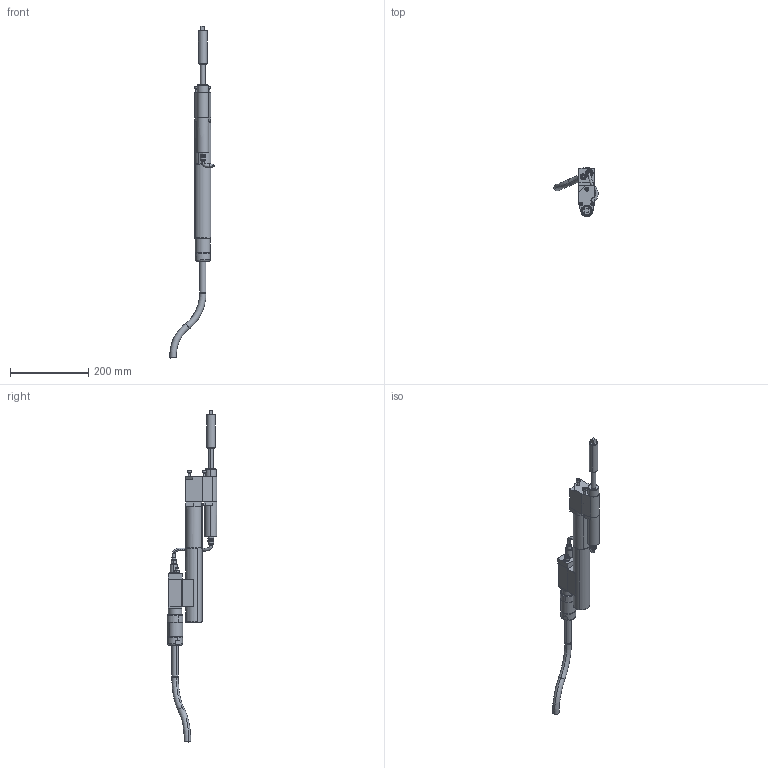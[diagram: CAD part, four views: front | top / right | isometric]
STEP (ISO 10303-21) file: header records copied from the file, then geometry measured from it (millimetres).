
FILE_DESCRIPTION(('CATIA V5 STEP Exchange'),'2;1');
FILE_NAME('O:\3D-Schrauber\Einschauschrauber Groesse1 CATIA V4+V5\7920133_ECR103_AOD150-35_AllCATPart.stp','2008-11-06T10:33:40+00:00',('none'),('none'),'CATIA Version 5 Release 16 (IN-10)','CATIA V5 STEP AP203','none');
FILE_SCHEMA(('CONFIG_CONTROL_DESIGN'));
Length unit declared in the file: millimetre
Products named in the file (1): 7920133_ECR103_AOD150-35_AllCATPart
Bounding box: 112.82 x 126.27 x 846.66 mm (x, y, z)
Volume: 1102888.2 mm3; surface area: 159497.4 mm2
Topology: 16 solids, 16 shells, 353 faces, 788 edges, 502 vertices
Faces by surface type: plane 158, cylinder 125, cone 34, torus 32, bspline 4
Entity records: 9761 total; most frequent: CARTESIAN_POINT 2387, ORIENTED_EDGE 1576, DIRECTION 1260, EDGE_CURVE 788, AXIS2_PLACEMENT_3D 619, VERTEX_POINT 502, EDGE_LOOP 388, VECTOR 386
